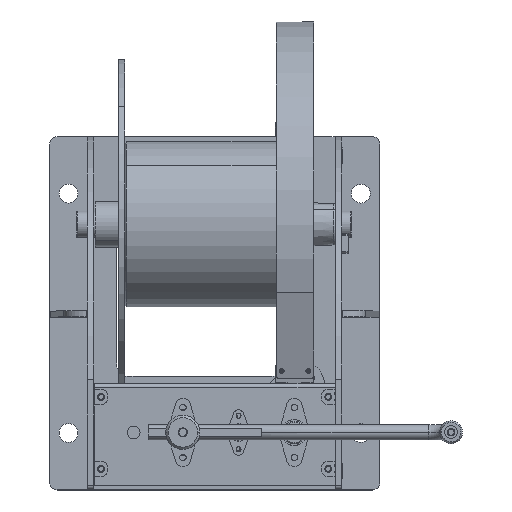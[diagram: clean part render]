
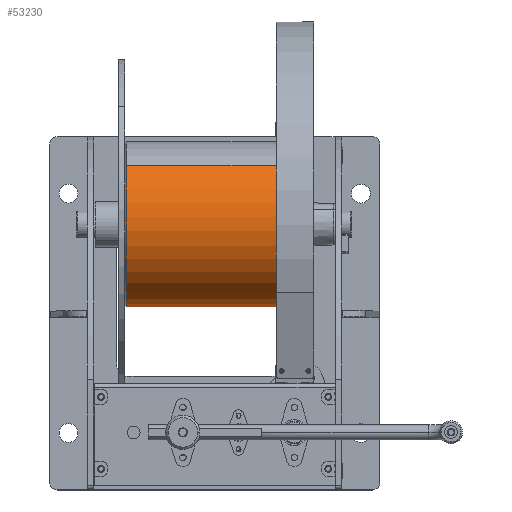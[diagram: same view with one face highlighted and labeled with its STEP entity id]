
A CAD part, top view. The second image highlights one B-rep face of the part: STEP entity #53230.
In plain terms, the highlighted cylindrical face has radius 109.55 mm (diameter 219.1 mm), a partial arc.
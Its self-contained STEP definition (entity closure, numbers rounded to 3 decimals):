
#69 = EDGE_CURVE ( 'NONE', #77285, #15540, #26376, .T. ) ;
#1052 = DIRECTION ( 'NONE',  ( 0., 0., -1. ) ) ;
#2417 = CIRCLE ( 'NONE', #72315, 109.55 ) ;
#5655 = DIRECTION ( 'NONE',  ( 0., 0., -1. ) ) ;
#6051 = VERTEX_POINT ( 'NONE', #40520 ) ;
#14328 = DIRECTION ( 'NONE',  ( 0., 0., -1. ) ) ;
#14461 = CYLINDRICAL_SURFACE ( 'NONE', #21083, 109.55 ) ;
#15540 = VERTEX_POINT ( 'NONE', #73748 ) ;
#19756 = ORIENTED_EDGE ( 'NONE', *, *, #57391, .T. ) ;
#21083 = AXIS2_PLACEMENT_3D ( 'NONE', #38311, #1052, #75561 ) ;
#24396 = VECTOR ( 'NONE', #14328, 1000. ) ;
#24724 = VERTEX_POINT ( 'NONE', #35532 ) ;
#25449 = EDGE_CURVE ( 'NONE', #15540, #24724, #54891, .T. ) ;
#25938 = CARTESIAN_POINT ( 'NONE',  ( 0., 0., -105.5 ) ) ;
#26376 = LINE ( 'NONE', #51561, #24396 ) ;
#32178 = DIRECTION ( 'NONE',  ( 1., 0., 0. ) ) ;
#33627 = DIRECTION ( 'NONE',  ( 0., 0., -1. ) ) ;
#35532 = CARTESIAN_POINT ( 'NONE',  ( -109.55, 0., -105.5 ) ) ;
#36757 = EDGE_CURVE ( 'NONE', #6051, #24724, #49129, .T. ) ;
#37378 = AXIS2_PLACEMENT_3D ( 'NONE', #25938, #69466, #32178 ) ;
#38311 = CARTESIAN_POINT ( 'NONE',  ( 0., 0., 108. ) ) ;
#40520 = CARTESIAN_POINT ( 'NONE',  ( -109.55, 0., 105.5 ) ) ;
#42911 = CARTESIAN_POINT ( 'NONE',  ( -109.55, 0., 108. ) ) ;
#46695 = ORIENTED_EDGE ( 'NONE', *, *, #69, .T. ) ;
#49129 = LINE ( 'NONE', #42911, #63709 ) ;
#49941 = CARTESIAN_POINT ( 'NONE',  ( 109.55, 0., 105.5 ) ) ;
#51561 = CARTESIAN_POINT ( 'NONE',  ( 109.55, 0., 108. ) ) ;
#53230 = ADVANCED_FACE ( 'NONE', ( #64089 ), #14461, .T. ) ;
#54891 = CIRCLE ( 'NONE', #37378, 109.55 ) ;
#57391 = EDGE_CURVE ( 'NONE', #6051, #77285, #2417, .T. ) ;
#63709 = VECTOR ( 'NONE', #5655, 1000. ) ;
#63904 = ORIENTED_EDGE ( 'NONE', *, *, #36757, .F. ) ;
#64089 = FACE_OUTER_BOUND ( 'NONE', #67888, .T. ) ;
#67888 = EDGE_LOOP ( 'NONE', ( #19756, #46695, #68925, #63904 ) ) ;
#68925 = ORIENTED_EDGE ( 'NONE', *, *, #25449, .T. ) ;
#69466 = DIRECTION ( 'NONE',  ( 0., 0., 1. ) ) ;
#70883 = CARTESIAN_POINT ( 'NONE',  ( 0., 0., 105.5 ) ) ;
#72315 = AXIS2_PLACEMENT_3D ( 'NONE', #70883, #33627, #77127 ) ;
#73748 = CARTESIAN_POINT ( 'NONE',  ( 109.55, 0., -105.5 ) ) ;
#75561 = DIRECTION ( 'NONE',  ( -1., 0., 0. ) ) ;
#77127 = DIRECTION ( 'NONE',  ( 1., 0., 0. ) ) ;
#77285 = VERTEX_POINT ( 'NONE', #49941 ) ;
